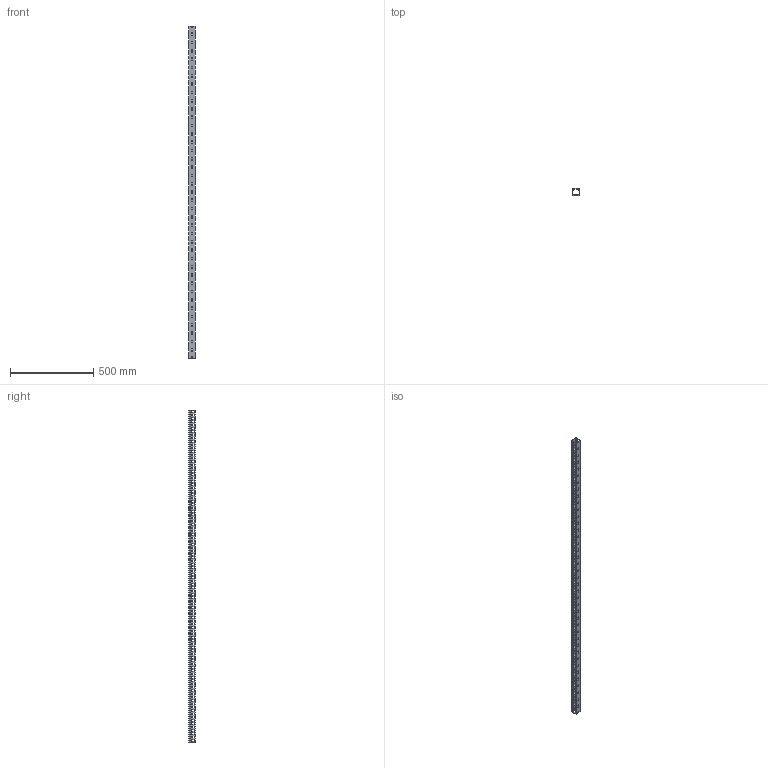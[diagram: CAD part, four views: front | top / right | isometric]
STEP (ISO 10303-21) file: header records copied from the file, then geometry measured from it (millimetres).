
FILE_DESCRIPTION (( 'STEP AP214' ), '1' );
FILE_NAME ('KD-44-20-H.STEP', '2020-02-19T00:21:41', ( '' ), ( '' ), 'SwSTEP 2.0', 'SolidWorks 2018', '' );
FILE_SCHEMA (( 'AUTOMOTIVE_DESIGN' ));
Length unit declared in the file: millimetre
Products named in the file (3): KD-44-20-H; KD-44-20-H-body; KD-44-20-cover
Assembly tree (2 placements, depth 2):
  KD-44-20-H
    KD-44-20-H-body
    KD-44-20-cover
Bounding box: 40 x 40.17 x 2000 mm (x, y, z)
Volume: 564941.8 mm3; surface area: 716551.9 mm2
Topology: 2 solids, 2 shells, 1867 faces, 5589 edges, 3726 vertices
Faces by surface type: cylinder 957, plane 910
Entity records: 64503 total; most frequent: DIRECTION 11247, CARTESIAN_POINT 11187, ORIENTED_EDGE 11178, EDGE_CURVE 5589, AXIS2_PLACEMENT_3D 3786, VERTEX_POINT 3726, LINE 3675, VECTOR 3675
